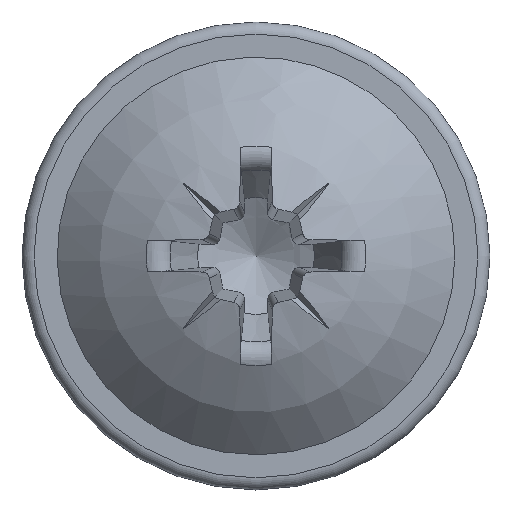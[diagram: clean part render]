
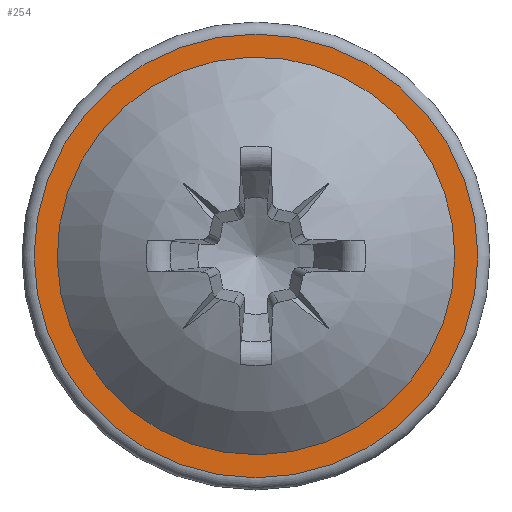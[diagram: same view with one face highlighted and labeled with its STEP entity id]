
A CAD part, top view. The second image highlights one B-rep face of the part: STEP entity #254.
In plain terms, the highlighted planar face has unit normal (0, 0, 1).
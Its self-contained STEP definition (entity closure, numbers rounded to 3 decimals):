
#66=PLANE('',#1427);
#235=FACE_BOUND('',#422,.T.);
#236=FACE_BOUND('',#423,.T.);
#254=ADVANCED_FACE('',(#235,#236),#66,.F.);
#422=EDGE_LOOP('',(#626));
#423=EDGE_LOOP('',(#627));
#503=CIRCLE('',#1383,6.588);
#539=CIRCLE('',#1426,7.35);
#626=ORIENTED_EDGE('',*,*,#1153,.T.);
#627=ORIENTED_EDGE('',*,*,#1093,.F.);
#962=VERTEX_POINT('',#2024);
#1019=VERTEX_POINT('',#2631);
#1093=EDGE_CURVE('',#962,#962,#503,.T.);
#1153=EDGE_CURVE('',#1019,#1019,#539,.T.);
#1383=AXIS2_PLACEMENT_3D('',#2023,#1492,#1493);
#1426=AXIS2_PLACEMENT_3D('',#2630,#1579,#1580);
#1427=AXIS2_PLACEMENT_3D('',#2632,#1581,#1582);
#1492=DIRECTION('',(0.,0.,1.));
#1493=DIRECTION('',(1.,0.,0.));
#1579=DIRECTION('',(0.,0.,1.));
#1580=DIRECTION('',(-1.,0.,0.));
#1581=DIRECTION('',(0.,0.,-1.));
#1582=DIRECTION('',(-1.,0.,0.));
#2023=CARTESIAN_POINT('',(0.,0.,1.6));
#2024=CARTESIAN_POINT('',(6.588,0.,1.6));
#2630=CARTESIAN_POINT('',(0.,0.,1.6));
#2631=CARTESIAN_POINT('',(-7.35,0.,1.6));
#2632=CARTESIAN_POINT('',(0.,7.75,1.6));
